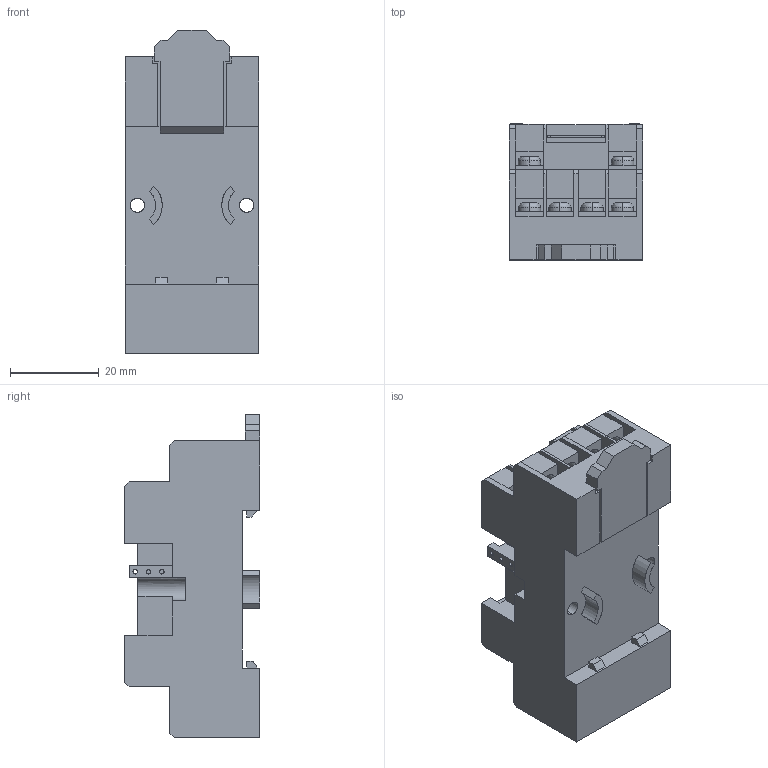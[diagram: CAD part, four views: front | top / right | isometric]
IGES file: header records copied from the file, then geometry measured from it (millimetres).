
Start section: SolidWorks IGES file using analytic representation for surfaces
Global section: file name: D:\X - Arquivos\PROEX\Empresas\P11 - METALTEX\01 - Produtos\IGES\7ª remessa\1ª etapa\PRT5.IGS; native system: SolidWorks 2012; preprocessor: SolidWorks 2012; author: Usuario; date: 190705.144118; units: millimetre
Bounding box: 30 x 30.6 x 73 mm (x, y, z)
Surface area: 16171.1 mm2 (no closed solid volume)
Topology: 0 solids, 0 shells, 1371 faces, 12040 edges, 12040 vertices
Faces by surface type: bspline 1287, revolution 84
